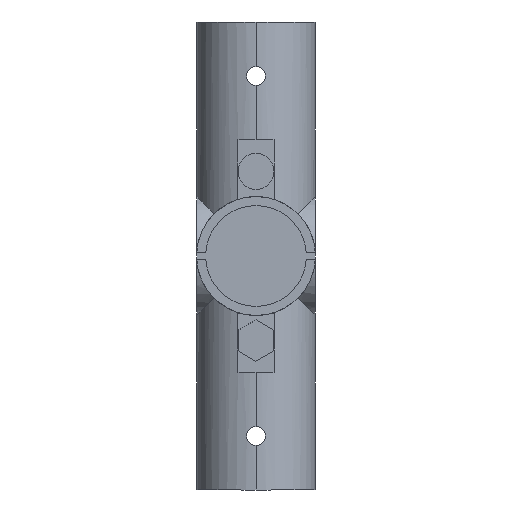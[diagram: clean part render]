
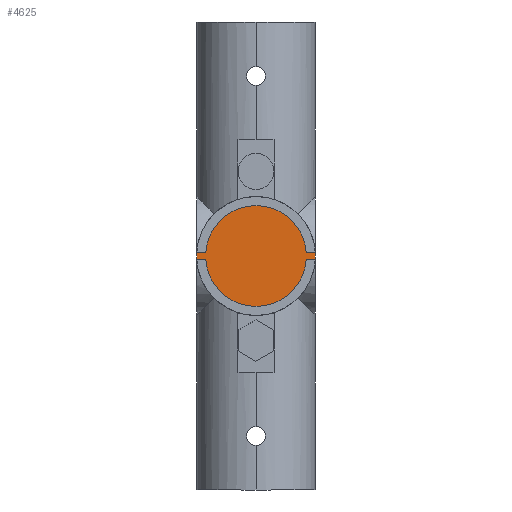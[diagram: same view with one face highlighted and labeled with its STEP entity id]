
A CAD part, left-side view. The second image highlights one B-rep face of the part: STEP entity #4625.
In plain terms, the highlighted planar face has unit normal (-1, 0, 0).
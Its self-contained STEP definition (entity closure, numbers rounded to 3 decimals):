
#101 = LINE ( 'NONE', #4880, #3672 ) ;
#116 = CIRCLE ( 'NONE', #4041, 14. ) ;
#371 = CARTESIAN_POINT ( 'NONE',  ( -35., -16.5, -1. ) ) ;
#413 = ORIENTED_EDGE ( 'NONE', *, *, #3710, .T. ) ;
#447 = CARTESIAN_POINT ( 'NONE',  ( -35., 0., 0. ) ) ;
#451 = EDGE_CURVE ( 'NONE', #4995, #5152, #4725, .T. ) ;
#479 = VECTOR ( 'NONE', #2509, 1000. ) ;
#604 = EDGE_CURVE ( 'NONE', #981, #5152, #955, .T. ) ;
#793 = DIRECTION ( 'NONE',  ( -1., 0., 0. ) ) ;
#857 = DIRECTION ( 'NONE',  ( 0., 0., 1. ) ) ;
#920 = EDGE_CURVE ( 'NONE', #4837, #1383, #5254, .T. ) ;
#955 = CIRCLE ( 'NONE', #2609, 16.5 ) ;
#979 = VERTEX_POINT ( 'NONE', #4311 ) ;
#981 = VERTEX_POINT ( 'NONE', #5200 ) ;
#983 = ORIENTED_EDGE ( 'NONE', *, *, #2628, .T. ) ;
#990 = DIRECTION ( 'NONE',  ( 0., 0., 1. ) ) ;
#1225 = DIRECTION ( 'NONE',  ( 0., 0., -1. ) ) ;
#1335 = ORIENTED_EDGE ( 'NONE', *, *, #451, .F. ) ;
#1352 = EDGE_LOOP ( 'NONE', ( #413, #3190, #5556, #1770, #983, #3986, #4121, #4085, #1335 ) ) ;
#1383 = VERTEX_POINT ( 'NONE', #5367 ) ;
#1390 = EDGE_CURVE ( 'NONE', #4645, #979, #101, .T. ) ;
#1426 = VERTEX_POINT ( 'NONE', #4971 ) ;
#1538 = DIRECTION ( 'NONE',  ( -1., 0., 0. ) ) ;
#1560 = CIRCLE ( 'NONE', #4772, 16.5 ) ;
#1599 = VECTOR ( 'NONE', #2114, 1000. ) ;
#1618 = DIRECTION ( 'NONE',  ( 0., 1., 0. ) ) ;
#1710 = DIRECTION ( 'NONE',  ( 0., 0., -1. ) ) ;
#1770 = ORIENTED_EDGE ( 'NONE', *, *, #4939, .T. ) ;
#1778 = CARTESIAN_POINT ( 'NONE',  ( -35., 0., 0. ) ) ;
#1958 = EDGE_CURVE ( 'NONE', #4645, #1426, #1560, .T. ) ;
#1965 = DIRECTION ( 'NONE',  ( 0., 0., 1. ) ) ;
#2046 = CARTESIAN_POINT ( 'NONE',  ( -35., 0., 0. ) ) ;
#2073 = CARTESIAN_POINT ( 'NONE',  ( -35., 13.964, -1. ) ) ;
#2108 = DIRECTION ( 'NONE',  ( -1., 0., 0. ) ) ;
#2114 = DIRECTION ( 'NONE',  ( 0., 1., 0. ) ) ;
#2143 = CARTESIAN_POINT ( 'NONE',  ( -35., 0., 0. ) ) ;
#2251 = DIRECTION ( 'NONE',  ( -1., 0., 0. ) ) ;
#2314 = EDGE_CURVE ( 'NONE', #1383, #981, #3337, .T. ) ;
#2402 = CIRCLE ( 'NONE', #4415, 14. ) ;
#2456 = AXIS2_PLACEMENT_3D ( 'NONE', #3410, #1538, #1965 ) ;
#2509 = DIRECTION ( 'NONE',  ( 0., 1., 0. ) ) ;
#2609 = AXIS2_PLACEMENT_3D ( 'NONE', #2143, #3893, #1710 ) ;
#2628 = EDGE_CURVE ( 'NONE', #3669, #4837, #2402, .T. ) ;
#2723 = CARTESIAN_POINT ( 'NONE',  ( -35., 16.47, -1. ) ) ;
#2856 = CARTESIAN_POINT ( 'NONE',  ( -35., -16.5, 1. ) ) ;
#2908 = CARTESIAN_POINT ( 'NONE',  ( -35., -16.5, 1. ) ) ;
#3079 = DIRECTION ( 'NONE',  ( -1., 0., 0. ) ) ;
#3190 = ORIENTED_EDGE ( 'NONE', *, *, #1390, .F. ) ;
#3196 = DIRECTION ( 'NONE',  ( 0., 1., 0. ) ) ;
#3337 = LINE ( 'NONE', #2908, #479 ) ;
#3408 = CARTESIAN_POINT ( 'NONE',  ( -35., -13.964, 1. ) ) ;
#3410 = CARTESIAN_POINT ( 'NONE',  ( -35., 0., 0. ) ) ;
#3575 = CARTESIAN_POINT ( 'NONE',  ( -35., 0., 14. ) ) ;
#3669 = VERTEX_POINT ( 'NONE', #3408 ) ;
#3672 = VECTOR ( 'NONE', #3196, 1000. ) ;
#3710 = EDGE_CURVE ( 'NONE', #4995, #979, #116, .T. ) ;
#3771 = CARTESIAN_POINT ( 'NONE',  ( -35., -16.47, -1. ) ) ;
#3893 = DIRECTION ( 'NONE',  ( -1., 0., 0. ) ) ;
#3973 = CARTESIAN_POINT ( 'NONE',  ( -35., 0., 0. ) ) ;
#3986 = ORIENTED_EDGE ( 'NONE', *, *, #920, .T. ) ;
#4041 = AXIS2_PLACEMENT_3D ( 'NONE', #3973, #2251, #990 ) ;
#4085 = ORIENTED_EDGE ( 'NONE', *, *, #604, .T. ) ;
#4121 = ORIENTED_EDGE ( 'NONE', *, *, #2314, .T. ) ;
#4238 = AXIS2_PLACEMENT_3D ( 'NONE', #447, #2108, #857 ) ;
#4311 = CARTESIAN_POINT ( 'NONE',  ( -35., -13.964, -1. ) ) ;
#4415 = AXIS2_PLACEMENT_3D ( 'NONE', #1778, #3079, #4818 ) ;
#4625 = ADVANCED_FACE ( 'NONE', ( #5467 ), #5550, .T. ) ;
#4645 = VERTEX_POINT ( 'NONE', #3771 ) ;
#4725 = LINE ( 'NONE', #371, #1599 ) ;
#4772 = AXIS2_PLACEMENT_3D ( 'NONE', #2046, #793, #1225 ) ;
#4818 = DIRECTION ( 'NONE',  ( 0., 0., 1. ) ) ;
#4837 = VERTEX_POINT ( 'NONE', #3575 ) ;
#4843 = VECTOR ( 'NONE', #1618, 1000. ) ;
#4880 = CARTESIAN_POINT ( 'NONE',  ( -35., -16.5, -1. ) ) ;
#4939 = EDGE_CURVE ( 'NONE', #1426, #3669, #5543, .T. ) ;
#4971 = CARTESIAN_POINT ( 'NONE',  ( -35., -16.47, 1. ) ) ;
#4995 = VERTEX_POINT ( 'NONE', #2073 ) ;
#5152 = VERTEX_POINT ( 'NONE', #2723 ) ;
#5200 = CARTESIAN_POINT ( 'NONE',  ( -35., 16.47, 1. ) ) ;
#5254 = CIRCLE ( 'NONE', #4238, 14. ) ;
#5367 = CARTESIAN_POINT ( 'NONE',  ( -35., 13.964, 1. ) ) ;
#5467 = FACE_OUTER_BOUND ( 'NONE', #1352, .T. ) ;
#5543 = LINE ( 'NONE', #2856, #4843 ) ;
#5550 = PLANE ( 'NONE',  #2456 ) ;
#5556 = ORIENTED_EDGE ( 'NONE', *, *, #1958, .T. ) ;
